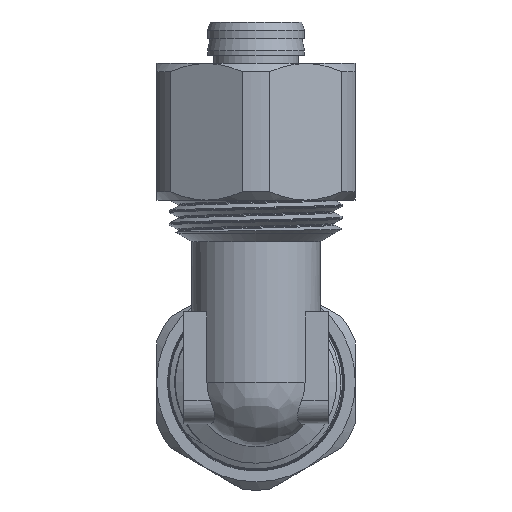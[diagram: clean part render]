
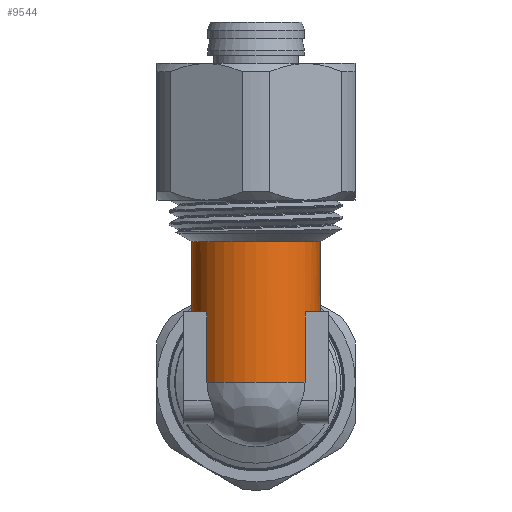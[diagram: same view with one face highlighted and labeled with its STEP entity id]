
A CAD part, front view. The second image highlights one B-rep face of the part: STEP entity #9544.
In plain terms, the highlighted cylindrical face has radius 7.75 mm (diameter 15.5 mm), a full revolution.
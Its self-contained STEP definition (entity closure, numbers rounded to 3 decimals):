
#362=ELLIPSE('',#10218,10.96,7.75);
#615=CYLINDRICAL_SURFACE('',#10216,7.75);
#1324=FACE_OUTER_BOUND('',#1883,.T.);
#1883=EDGE_LOOP('',(#6528,#6529,#6530,#6531,#6532,#6533,#6534,#6535,#6536,
#6537,#6538,#6539,#6540,#6541));
#2488=LINE('',#12635,#3097);
#2489=LINE('',#12639,#3098);
#2490=LINE('',#12643,#3099);
#2491=LINE('',#12647,#3100);
#2492=LINE('',#12651,#3101);
#3097=VECTOR('',#10840,7.75);
#3098=VECTOR('',#10843,10.);
#3099=VECTOR('',#10846,10.);
#3100=VECTOR('',#10849,10.);
#3101=VECTOR('',#10852,10.);
#3701=CIRCLE('',#10187,7.75);
#3702=CIRCLE('',#10188,7.75);
#3703=CIRCLE('',#10189,7.75);
#3722=CIRCLE('',#10217,7.75);
#3723=CIRCLE('',#10219,7.75);
#3724=CIRCLE('',#10220,7.75);
#3725=CIRCLE('',#10221,7.75);
#3951=VERTEX_POINT('',#12577);
#3952=VERTEX_POINT('',#12579);
#3953=VERTEX_POINT('',#12581);
#3972=VERTEX_POINT('',#12634);
#3973=VERTEX_POINT('',#12636);
#3974=VERTEX_POINT('',#12638);
#3975=VERTEX_POINT('',#12640);
#3976=VERTEX_POINT('',#12642);
#3977=VERTEX_POINT('',#12644);
#3978=VERTEX_POINT('',#12646);
#3979=VERTEX_POINT('',#12648);
#3980=VERTEX_POINT('',#12650);
#4968=EDGE_CURVE('',#3952,#3951,#3701,.T.);
#4969=EDGE_CURVE('',#3953,#3952,#3702,.T.);
#4970=EDGE_CURVE('',#3951,#3953,#3703,.T.);
#4994=EDGE_CURVE('',#3952,#3972,#2488,.T.);
#4995=EDGE_CURVE('',#3972,#3973,#3722,.T.);
#4996=EDGE_CURVE('',#3973,#3974,#2489,.T.);
#4997=EDGE_CURVE('',#3975,#3974,#362,.T.);
#4998=EDGE_CURVE('',#3975,#3976,#2490,.T.);
#4999=EDGE_CURVE('',#3976,#3977,#3723,.T.);
#5000=EDGE_CURVE('',#3977,#3978,#2491,.T.);
#5001=EDGE_CURVE('',#3978,#3979,#3724,.T.);
#5002=EDGE_CURVE('',#3979,#3980,#2492,.T.);
#5003=EDGE_CURVE('',#3980,#3972,#3725,.T.);
#6528=ORIENTED_EDGE('',*,*,#4969,.T.);
#6529=ORIENTED_EDGE('',*,*,#4994,.T.);
#6530=ORIENTED_EDGE('',*,*,#4995,.T.);
#6531=ORIENTED_EDGE('',*,*,#4996,.T.);
#6532=ORIENTED_EDGE('',*,*,#4997,.F.);
#6533=ORIENTED_EDGE('',*,*,#4998,.T.);
#6534=ORIENTED_EDGE('',*,*,#4999,.T.);
#6535=ORIENTED_EDGE('',*,*,#5000,.T.);
#6536=ORIENTED_EDGE('',*,*,#5001,.T.);
#6537=ORIENTED_EDGE('',*,*,#5002,.T.);
#6538=ORIENTED_EDGE('',*,*,#5003,.T.);
#6539=ORIENTED_EDGE('',*,*,#4994,.F.);
#6540=ORIENTED_EDGE('',*,*,#4968,.T.);
#6541=ORIENTED_EDGE('',*,*,#4970,.T.);
#9544=ADVANCED_FACE('',(#1324),#615,.T.);
#10187=AXIS2_PLACEMENT_3D('',#12580,#10775,#10776);
#10188=AXIS2_PLACEMENT_3D('',#12582,#10777,#10778);
#10189=AXIS2_PLACEMENT_3D('',#12583,#10779,#10780);
#10216=AXIS2_PLACEMENT_3D('',#12633,#10838,#10839);
#10217=AXIS2_PLACEMENT_3D('',#12637,#10841,#10842);
#10218=AXIS2_PLACEMENT_3D('',#12641,#10844,#10845);
#10219=AXIS2_PLACEMENT_3D('',#12645,#10847,#10848);
#10220=AXIS2_PLACEMENT_3D('',#12649,#10850,#10851);
#10221=AXIS2_PLACEMENT_3D('',#12652,#10853,#10854);
#10775=DIRECTION('center_axis',(0.,0.,-1.));
#10776=DIRECTION('ref_axis',(0.,1.,0.));
#10777=DIRECTION('center_axis',(0.,0.,-1.));
#10778=DIRECTION('ref_axis',(0.,1.,0.));
#10779=DIRECTION('center_axis',(0.,0.,-1.));
#10780=DIRECTION('ref_axis',(0.,1.,0.));
#10838=DIRECTION('center_axis',(0.,0.,1.));
#10839=DIRECTION('ref_axis',(-1.,0.,0.));
#10840=DIRECTION('',(0.,0.,-1.));
#10841=DIRECTION('center_axis',(0.,0.,1.));
#10842=DIRECTION('ref_axis',(-1.,0.,0.));
#10843=DIRECTION('',(0.,0.,-1.));
#10844=DIRECTION('center_axis',(0.,0.707,-0.707));
#10845=DIRECTION('ref_axis',(0.,-0.707,-0.707));
#10846=DIRECTION('',(0.,0.,1.));
#10847=DIRECTION('center_axis',(0.,0.,1.));
#10848=DIRECTION('ref_axis',(-1.,0.,0.));
#10849=DIRECTION('',(0.,0.,-1.));
#10850=DIRECTION('center_axis',(0.,0.,1.));
#10851=DIRECTION('ref_axis',(-1.,0.,0.));
#10852=DIRECTION('',(0.,0.,1.));
#10853=DIRECTION('center_axis',(0.,0.,1.));
#10854=DIRECTION('ref_axis',(-1.,0.,0.));
#12577=CARTESIAN_POINT('',(0.,-36.25,17.));
#12579=CARTESIAN_POINT('',(7.75,-28.5,17.));
#12580=CARTESIAN_POINT('Origin',(0.,-28.5,17.));
#12581=CARTESIAN_POINT('',(0.,-20.75,17.));
#12582=CARTESIAN_POINT('Origin',(0.,-28.5,17.));
#12583=CARTESIAN_POINT('Origin',(0.,-28.5,17.));
#12633=CARTESIAN_POINT('Origin',(0.,-28.5,0.));
#12634=CARTESIAN_POINT('',(7.75,-28.5,8.5));
#12635=CARTESIAN_POINT('',(7.75,-28.5,0.));
#12636=CARTESIAN_POINT('',(5.921,-23.5,8.5));
#12637=CARTESIAN_POINT('Origin',(0.,-28.5,8.5));
#12638=CARTESIAN_POINT('',(5.921,-23.5,5.));
#12639=CARTESIAN_POINT('',(5.921,-23.5,0.));
#12640=CARTESIAN_POINT('',(-5.921,-23.5,5.));
#12641=CARTESIAN_POINT('Origin',(0.,-28.5,0.));
#12642=CARTESIAN_POINT('',(-5.921,-23.5,8.5));
#12643=CARTESIAN_POINT('',(-5.921,-23.5,0.));
#12644=CARTESIAN_POINT('',(-5.921,-33.5,8.5));
#12645=CARTESIAN_POINT('Origin',(0.,-28.5,8.5));
#12646=CARTESIAN_POINT('',(-5.921,-33.5,0.));
#12647=CARTESIAN_POINT('',(-5.921,-33.5,0.));
#12648=CARTESIAN_POINT('',(5.921,-33.5,0.));
#12649=CARTESIAN_POINT('Origin',(0.,-28.5,0.));
#12650=CARTESIAN_POINT('',(5.921,-33.5,8.5));
#12651=CARTESIAN_POINT('',(5.921,-33.5,0.));
#12652=CARTESIAN_POINT('Origin',(0.,-28.5,8.5));
